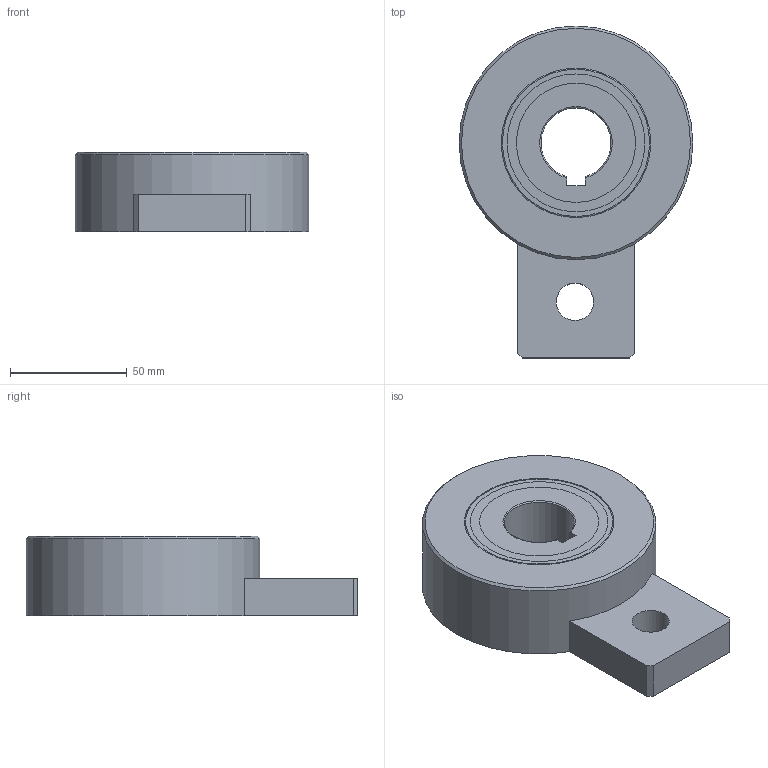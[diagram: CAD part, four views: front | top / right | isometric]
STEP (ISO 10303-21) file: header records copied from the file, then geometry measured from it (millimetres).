
FILE_DESCRIPTION(/* description */ (''),/* implementation_level */ '2;1');
FILE_NAME(/* name */ '301048 RA 459 Z.stp',/* time_stamp */ '2016-11-17T09:21:44+01:00',/* author */ (''),/* organization */ (''),/* preprocessor_version */ 'ST-DEVELOPER v15',/* originating_system */ 'SIEMENS PLM Software NX 8.5',/* authorisation */ '');
FILE_SCHEMA (('CONFIG_CONTROL_DESIGN'));
Length unit declared in the file: millimetre
Products named in the file (5): ATE0000080_01; ATE0000091_01; ATE0000094_01; ATE0000092_01_MODELL; ATE0000096_01
Assembly tree (4 placements, depth 3):
  ATE0000096_01
    ATE0000094_01
    ATE0000092_01_MODELL
      ATE0000091_01
      ATE0000080_01
Bounding box: 100 x 142 x 34 mm (x, y, z)
Volume: 265016.2 mm3; surface area: 72764.3 mm2
Topology: 6 solids, 6 shells, 91 faces, 202 edges, 133 vertices
Faces by surface type: plane 57, cylinder 27, torus 6, cone 1
Full cylindrical faces by diameter (mm): 16 x1, 51 x5, 55 x1, 57 x1, 58 x2, 59 x5, 64 x2, 100 x1
Entity records: 2961 total; most frequent: CARTESIAN_POINT 467, DIRECTION 434, ORIENTED_EDGE 340, AXIS2_PLACEMENT_3D 172, EDGE_CURVE 170, EDGE_LOOP 140, VERTEX_POINT 126, ADVANCED_FACE 91
